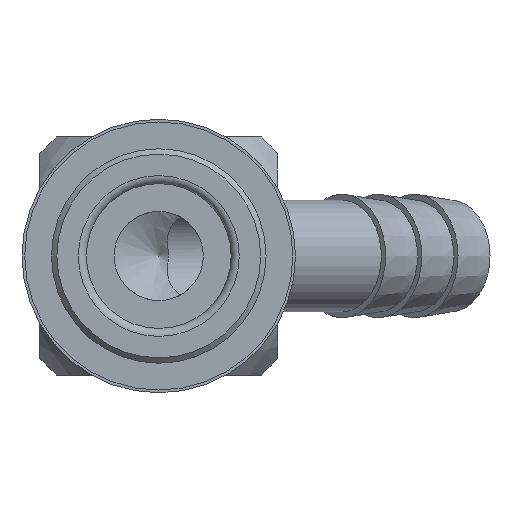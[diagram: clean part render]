
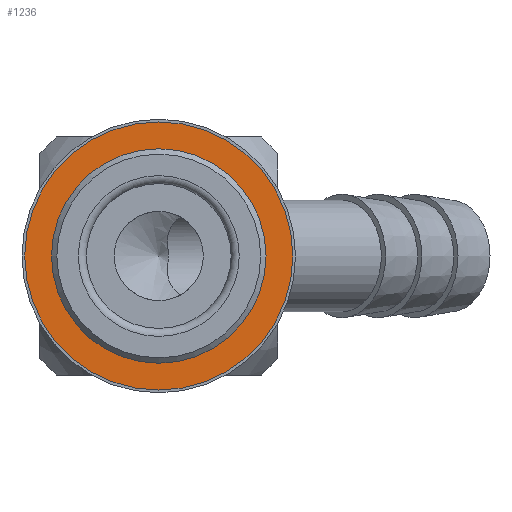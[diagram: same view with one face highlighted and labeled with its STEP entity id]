
A CAD part, left-side view. The second image highlights one B-rep face of the part: STEP entity #1236.
In plain terms, the highlighted planar face has unit normal (-1, 0, 0).
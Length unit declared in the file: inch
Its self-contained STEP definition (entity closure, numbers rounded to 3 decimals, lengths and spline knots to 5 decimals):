
#149=PLANE('',#1389);
#298=CIRCLE('',#1388,0.356);
#299=CIRCLE('',#1390,0.445);
#469=ORIENTED_EDGE('',*,*,#793,.F.);
#470=ORIENTED_EDGE('',*,*,#792,.T.);
#792=EDGE_CURVE('',#950,#950,#298,.T.);
#793=EDGE_CURVE('',#951,#951,#299,.T.);
#950=VERTEX_POINT('',#2158);
#951=VERTEX_POINT('',#2161);
#1014=EDGE_LOOP('',(#469));
#1015=EDGE_LOOP('',(#470));
#1124=FACE_BOUND('',#1014,.T.);
#1125=FACE_BOUND('',#1015,.T.);
#1236=ADVANCED_FACE('',(#1124,#1125),#149,.F.);
#1388=AXIS2_PLACEMENT_3D('',#2157,#1663,#1664);
#1389=AXIS2_PLACEMENT_3D('',#2159,#1665,#1666);
#1390=AXIS2_PLACEMENT_3D('',#2160,#1667,#1668);
#1663=DIRECTION('',(1.,0.,0.));
#1664=DIRECTION('',(0.,0.,-1.));
#1665=DIRECTION('',(1.,0.,0.));
#1666=DIRECTION('',(0.,0.,-1.));
#1667=DIRECTION('',(1.,0.,0.));
#1668=DIRECTION('',(0.,0.,-1.));
#2157=CARTESIAN_POINT('',(0.,0.,0.));
#2158=CARTESIAN_POINT('',(0.,0.,-0.356));
#2159=CARTESIAN_POINT('',(0.,0.356,0.));
#2160=CARTESIAN_POINT('',(0.,0.,0.));
#2161=CARTESIAN_POINT('',(0.,0.,-0.445));
